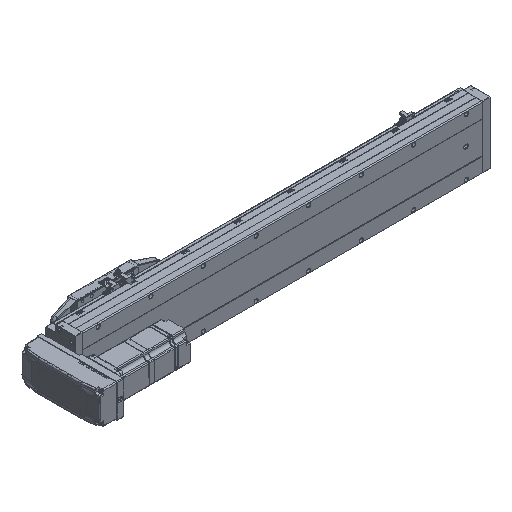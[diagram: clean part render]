
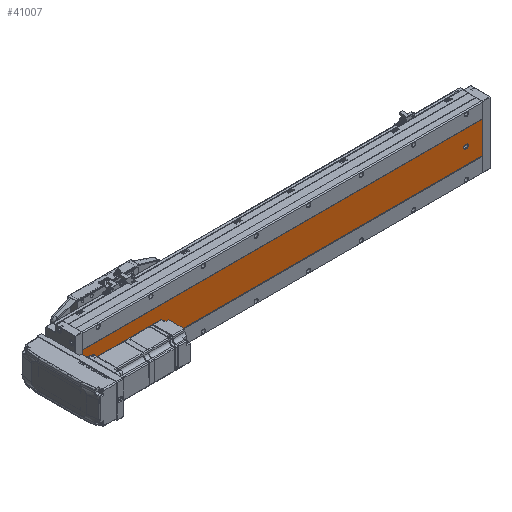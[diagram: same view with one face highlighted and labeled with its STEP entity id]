
A CAD part, isometric view. The second image highlights one B-rep face of the part: STEP entity #41007.
In plain terms, the highlighted planar face has unit normal (0, -1, 0).
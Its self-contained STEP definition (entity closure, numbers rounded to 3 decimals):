
#1873 = CARTESIAN_POINT ( 'NONE',  ( -39.892, -52.848, 727.5 ) ) ;
#1889 = ORIENTED_EDGE ( 'NONE', *, *, #11743, .T. ) ;
#3136 = VERTEX_POINT ( 'NONE', #40979 ) ;
#3292 = VERTEX_POINT ( 'NONE', #36563 ) ;
#3392 = EDGE_CURVE ( 'NONE', #8590, #34393, #56665, .T. ) ;
#4206 = VERTEX_POINT ( 'NONE', #51696 ) ;
#4666 = AXIS2_PLACEMENT_3D ( 'NONE', #67748, #26148, #61512 ) ;
#4822 = CARTESIAN_POINT ( 'NONE',  ( -39.892, -52.848, 30. ) ) ;
#4925 = VECTOR ( 'NONE', #15112, 1000. ) ;
#4953 = FACE_OUTER_BOUND ( 'NONE', #50961, .T. ) ;
#5761 = EDGE_CURVE ( 'NONE', #3292, #49458, #9006, .T. ) ;
#6508 = CIRCLE ( 'NONE', #8618, 3.5 ) ;
#7461 = AXIS2_PLACEMENT_3D ( 'NONE', #27366, #15166, #26327 ) ;
#8590 = VERTEX_POINT ( 'NONE', #56270 ) ;
#8618 = AXIS2_PLACEMENT_3D ( 'NONE', #22206, #63792, #69506 ) ;
#8963 = CARTESIAN_POINT ( 'NONE',  ( -39.892, -52.848, 32. ) ) ;
#9006 = CIRCLE ( 'NONE', #75556, 3.5 ) ;
#9479 = ORIENTED_EDGE ( 'NONE', *, *, #36247, .F. ) ;
#10562 = CARTESIAN_POINT ( 'NONE',  ( -39.892, -52.848, 26.5 ) ) ;
#10736 = DIRECTION ( 'NONE',  ( 0., 0., 1. ) ) ;
#11743 = EDGE_CURVE ( 'NONE', #44595, #53753, #66712, .T. ) ;
#12437 = LINE ( 'NONE', #43425, #4925 ) ;
#12440 = AXIS2_PLACEMENT_3D ( 'NONE', #57293, #40092, #15716 ) ;
#12536 = CARTESIAN_POINT ( 'NONE',  ( -69.892, -52.848, 0. ) ) ;
#12796 = DIRECTION ( 'NONE',  ( 1., 0., 0. ) ) ;
#12839 = CARTESIAN_POINT ( 'NONE',  ( -36.392, -52.848, 32. ) ) ;
#15112 = DIRECTION ( 'NONE',  ( 0., 0., 1. ) ) ;
#15166 = DIRECTION ( 'NONE',  ( 0., 1., 0. ) ) ;
#15217 = CARTESIAN_POINT ( 'NONE',  ( -69.892, -52.848, 761. ) ) ;
#15716 = DIRECTION ( 'NONE',  ( 0., 0., 1. ) ) ;
#17999 = FACE_BOUND ( 'NONE', #60863, .T. ) ;
#18856 = LINE ( 'NONE', #20577, #42070 ) ;
#19113 = VECTOR ( 'NONE', #12796, 1000. ) ;
#20577 = CARTESIAN_POINT ( 'NONE',  ( -36.392, -52.848, 761. ) ) ;
#21359 = EDGE_CURVE ( 'NONE', #50554, #72262, #27458, .T. ) ;
#22206 = CARTESIAN_POINT ( 'NONE',  ( -39.892, -52.848, 731. ) ) ;
#22998 = CIRCLE ( 'NONE', #7461, 3.5 ) ;
#24067 = ORIENTED_EDGE ( 'NONE', *, *, #55632, .T. ) ;
#24933 = DIRECTION ( 'NONE',  ( 0., 0., -1. ) ) ;
#25003 = CIRCLE ( 'NONE', #55723, 3.5 ) ;
#25459 = FACE_BOUND ( 'NONE', #69591, .T. ) ;
#25738 = DIRECTION ( 'NONE',  ( 0., 0., -1. ) ) ;
#26148 = DIRECTION ( 'NONE',  ( 0., 1., 0. ) ) ;
#26327 = DIRECTION ( 'NONE',  ( 0., 0., 1. ) ) ;
#26910 = DIRECTION ( 'NONE',  ( 0., 0., 1. ) ) ;
#27366 = CARTESIAN_POINT ( 'NONE',  ( -39.892, -52.848, 631. ) ) ;
#27458 = LINE ( 'NONE', #75370, #52576 ) ;
#28929 = CARTESIAN_POINT ( 'NONE',  ( -39.892, -52.848, 731. ) ) ;
#29313 = LINE ( 'NONE', #12536, #19113 ) ;
#32707 = ORIENTED_EDGE ( 'NONE', *, *, #76898, .T. ) ;
#32941 = FACE_BOUND ( 'NONE', #42314, .T. ) ;
#34393 = VERTEX_POINT ( 'NONE', #52481 ) ;
#35615 = EDGE_CURVE ( 'NONE', #4206, #3136, #29313, .T. ) ;
#36247 = EDGE_CURVE ( 'NONE', #72262, #3136, #38446, .T. ) ;
#36431 = DIRECTION ( 'NONE',  ( 0., 0., 1. ) ) ;
#36563 = CARTESIAN_POINT ( 'NONE',  ( -39.892, -52.848, 734.5 ) ) ;
#38446 = LINE ( 'NONE', #48062, #54254 ) ;
#40092 = DIRECTION ( 'NONE',  ( 0., 1., 0. ) ) ;
#40126 = CARTESIAN_POINT ( 'NONE',  ( -36.392, -52.848, 30. ) ) ;
#40979 = CARTESIAN_POINT ( 'NONE',  ( -9.892, -52.848, 0. ) ) ;
#41007 = ADVANCED_FACE ( 'NONE', ( #25459, #17999, #32941, #4953 ), #64041, .F. ) ;
#42030 = AXIS2_PLACEMENT_3D ( 'NONE', #8963, #56262, #26910 ) ;
#42070 = VECTOR ( 'NONE', #25738, 1000. ) ;
#42314 = EDGE_LOOP ( 'NONE', ( #59073, #42963 ) ) ;
#42476 = DIRECTION ( 'NONE',  ( 1., 0., 0. ) ) ;
#42963 = ORIENTED_EDGE ( 'NONE', *, *, #5761, .T. ) ;
#43425 = CARTESIAN_POINT ( 'NONE',  ( -43.392, -52.848, 761. ) ) ;
#44595 = VERTEX_POINT ( 'NONE', #63861 ) ;
#47280 = EDGE_CURVE ( 'NONE', #57625, #62508, #50064, .T. ) ;
#48062 = CARTESIAN_POINT ( 'NONE',  ( -9.892, -52.848, 761. ) ) ;
#48970 = CARTESIAN_POINT ( 'NONE',  ( -43.392, -52.848, 30. ) ) ;
#49458 = VERTEX_POINT ( 'NONE', #1873 ) ;
#50064 = CIRCLE ( 'NONE', #53616, 3.5 ) ;
#50554 = VERTEX_POINT ( 'NONE', #15217 ) ;
#50603 = ORIENTED_EDGE ( 'NONE', *, *, #74033, .T. ) ;
#50961 = EDGE_LOOP ( 'NONE', ( #66030, #9479, #72815, #24067 ) ) ;
#51696 = CARTESIAN_POINT ( 'NONE',  ( -69.892, -52.848, 0. ) ) ;
#52481 = CARTESIAN_POINT ( 'NONE',  ( -39.892, -52.848, 627.5 ) ) ;
#52576 = VECTOR ( 'NONE', #42476, 1000. ) ;
#53594 = VERTEX_POINT ( 'NONE', #40126 ) ;
#53616 = AXIS2_PLACEMENT_3D ( 'NONE', #72057, #72817, #36431 ) ;
#53753 = VERTEX_POINT ( 'NONE', #12839 ) ;
#54254 = VECTOR ( 'NONE', #24933, 1000. ) ;
#55632 = EDGE_CURVE ( 'NONE', #50554, #4206, #63396, .T. ) ;
#55723 = AXIS2_PLACEMENT_3D ( 'NONE', #4822, #64155, #76644 ) ;
#56262 = DIRECTION ( 'NONE',  ( 0., 1., 0. ) ) ;
#56270 = CARTESIAN_POINT ( 'NONE',  ( -39.892, -52.848, 634.5 ) ) ;
#56665 = CIRCLE ( 'NONE', #4666, 3.5 ) ;
#57293 = CARTESIAN_POINT ( 'NONE',  ( -69.892, -52.848, 761. ) ) ;
#57625 = VERTEX_POINT ( 'NONE', #10562 ) ;
#58153 = CARTESIAN_POINT ( 'NONE',  ( -9.892, -52.848, 761. ) ) ;
#59073 = ORIENTED_EDGE ( 'NONE', *, *, #62888, .T. ) ;
#59633 = VECTOR ( 'NONE', #59820, 1000. ) ;
#59820 = DIRECTION ( 'NONE',  ( 0., 0., -1. ) ) ;
#60863 = EDGE_LOOP ( 'NONE', ( #73185, #70121 ) ) ;
#61481 = EDGE_CURVE ( 'NONE', #53753, #53594, #18856, .T. ) ;
#61512 = DIRECTION ( 'NONE',  ( 0., 0., 1. ) ) ;
#62508 = VERTEX_POINT ( 'NONE', #48970 ) ;
#62888 = EDGE_CURVE ( 'NONE', #49458, #3292, #6508, .T. ) ;
#63396 = LINE ( 'NONE', #65821, #59633 ) ;
#63792 = DIRECTION ( 'NONE',  ( 0., 1., 0. ) ) ;
#63861 = CARTESIAN_POINT ( 'NONE',  ( -43.392, -52.848, 32. ) ) ;
#64041 = PLANE ( 'NONE',  #12440 ) ;
#64155 = DIRECTION ( 'NONE',  ( 0., 1., 0. ) ) ;
#65821 = CARTESIAN_POINT ( 'NONE',  ( -69.892, -52.848, 761. ) ) ;
#66030 = ORIENTED_EDGE ( 'NONE', *, *, #35615, .T. ) ;
#66712 = CIRCLE ( 'NONE', #42030, 3.5 ) ;
#67748 = CARTESIAN_POINT ( 'NONE',  ( -39.892, -52.848, 631. ) ) ;
#68678 = ORIENTED_EDGE ( 'NONE', *, *, #47280, .T. ) ;
#69506 = DIRECTION ( 'NONE',  ( 0., 0., 1. ) ) ;
#69591 = EDGE_LOOP ( 'NONE', ( #1889, #69962, #50603, #68678, #32707 ) ) ;
#69962 = ORIENTED_EDGE ( 'NONE', *, *, #61481, .T. ) ;
#70121 = ORIENTED_EDGE ( 'NONE', *, *, #3392, .T. ) ;
#72057 = CARTESIAN_POINT ( 'NONE',  ( -39.892, -52.848, 30. ) ) ;
#72262 = VERTEX_POINT ( 'NONE', #58153 ) ;
#72815 = ORIENTED_EDGE ( 'NONE', *, *, #21359, .F. ) ;
#72817 = DIRECTION ( 'NONE',  ( 0., 1., 0. ) ) ;
#73185 = ORIENTED_EDGE ( 'NONE', *, *, #74838, .T. ) ;
#74033 = EDGE_CURVE ( 'NONE', #53594, #57625, #25003, .T. ) ;
#74838 = EDGE_CURVE ( 'NONE', #34393, #8590, #22998, .T. ) ;
#75370 = CARTESIAN_POINT ( 'NONE',  ( -69.892, -52.848, 761. ) ) ;
#75556 = AXIS2_PLACEMENT_3D ( 'NONE', #28929, #76510, #10736 ) ;
#76510 = DIRECTION ( 'NONE',  ( 0., 1., 0. ) ) ;
#76644 = DIRECTION ( 'NONE',  ( 0., 0., 1. ) ) ;
#76898 = EDGE_CURVE ( 'NONE', #62508, #44595, #12437, .T. ) ;
